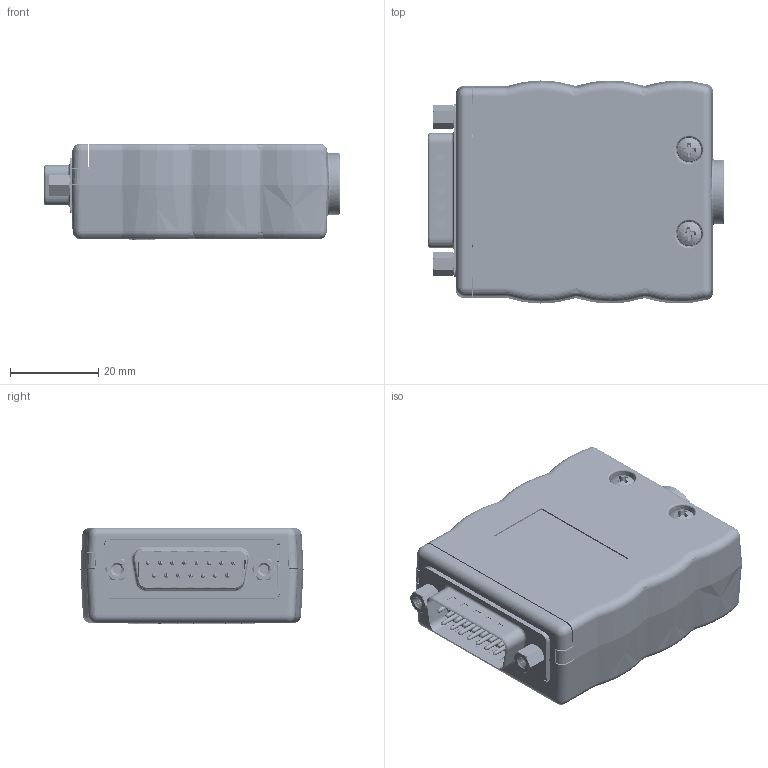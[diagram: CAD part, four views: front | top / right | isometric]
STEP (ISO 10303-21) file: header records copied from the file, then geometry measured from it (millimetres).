
FILE_DESCRIPTION (( 'STEP AP214' ), '1' );
FILE_NAME ('brkead15m-r_rev_a.stp', '2021-11-15T01:51:03', ( '' ), ( '' ), 'SwSTEP 2.0', 'SolidWorks 2017', '' );
FILE_SCHEMA (( 'AUTOMOTIVE_DESIGN' ));
Length unit declared in the file: inch
Products named in the file (12): Enclosure ECB15; Enclosure_Cable Tie_Tail-Cut; BRKEAD15M Board; Screw Terminal 2 Pos; brkead15m-r_rev_a; BRKEAD15M Assembly_BRKEAD15M-R; Enclosure #4-40 Insert_92395A112; R Label; Screw Terminal 3 Pos; Enclosure_Screw Ph 4-40 x .625_90272A112; Enclosure_Screw Ph 2-28 x .25_90380A005; Male Right Angle 15 Pin Jackscrew
Assembly tree (18 placements, depth 3):
  brkead15m-r_rev_a
    Enclosure ECB15
    Enclosure_Cable Tie_Tail-Cut
    Enclosure_Screw Ph 2-28 x .25_90380A005  x2
    Enclosure_Screw Ph 4-40 x .625_90272A112  x2
    Enclosure #4-40 Insert_92395A112  x2
    BRKEAD15M Assembly_BRKEAD15M-R
      BRKEAD15M Board
      Male Right Angle 15 Pin Jackscrew
      Screw Terminal 2 Pos  x2
      Screw Terminal 3 Pos  x4
    R Label
Bounding box: 67.29 x 50.61 x 22 mm (x, y, z)
Volume: 25817.2 mm3; surface area: 39473.6 mm2
Topology: 126 solids, 148 shells, 11559 faces, 28618 edges, 17587 vertices
Faces by surface type: plane 4307, bspline 4203, cylinder 2410, cone 249, sphere 213, torus 177
Entity records: 498994 total; most frequent: CARTESIAN_POINT 237942, ORIENTED_EDGE 45152, DIRECTION 30517, EDGE_CURVE 22582, VERTEX_POINT 13962, VECTOR 11149, LINE 11149, AXIS2_PLACEMENT_3D 9684
